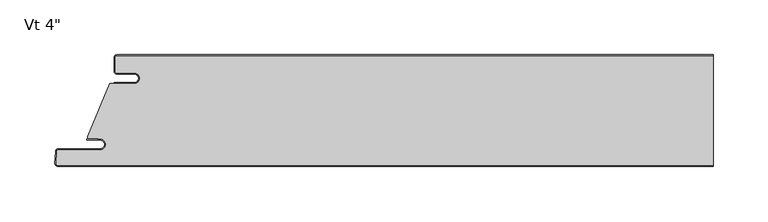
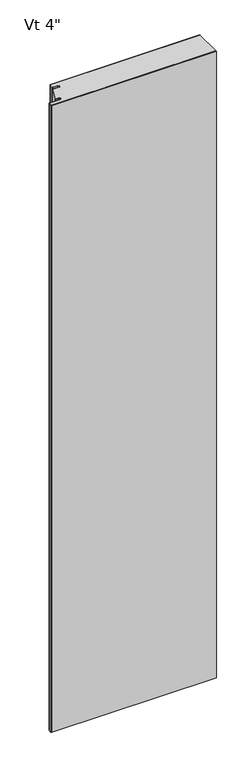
"""IFC4 building model written with IfcOpenShell, lengths in millimetres: plate geometry."""

from ifc_helpers import new_model, si_unit, point, frame_2d, origin, origin_with_axes, place, context, project, spatial, polyline, circle_curve, trimmed, segment, composite_curve, outline, extrude, source, transform, mapped, element, save


def plate_4c4a6c8b(model_context):
    return source(origin(), model_context, "Body", "SweptSolid", [
        extrude(outline(composite_curve([segment(polyline([(-253.7437498, -16.4625), (-269.6187498, -16.4625)]), True, "CONTINUOUS"), segment(trimmed(circle_curve(frame_2d((-269.6187498, -15.08125)), 1.38125), [point((-269.6187498, -16.4625))], [point((-270.9999998, -15.08125))], False, "CARTESIAN"), True, "CONTINUOUS"), segment(polyline([(-270.9999998, -15.08125), (-270.9999998, -2.38125)]), True, "CONTINUOUS"), segment(trimmed(circle_curve(frame_2d((-269.6187498, -2.38125)), 1.38125), [point((-270.9999998, -2.38125))], [point((-269.6187498, -1.0))], False, "CARTESIAN"), True, "CONTINUOUS"), segment(polyline([(-269.6187498, -1.0), (272.8062498, -1.0), (272.8062498, -100.6), (-323.4799534, -100.6)]), True, "CONTINUOUS"), segment(trimmed(circle_curve(frame_2d((-323.4799534, -99.21875)), 1.38125), [point((-323.4799534, -100.6))], [point((-324.8593104, -99.146461))], False, "CARTESIAN"), True, "CONTINUOUS"), segment(polyline([(-324.8593104, -99.146461), (-324.276929, -88.033961)]), True, "CONTINUOUS"), segment(trimmed(circle_curve(frame_2d((-322.8975719, -88.10625)), 1.38125), [point((-324.276929, -88.033961))], [point((-322.8975719, -86.725))], False, "CARTESIAN"), True, "CONTINUOUS"), segment(polyline([(-322.8975719, -86.725), (-284.7142673, -86.725)]), True, "CONTINUOUS"), segment(trimmed(circle_curve(frame_2d((-284.7142673, -81.75625)), 4.96875), [point((-284.7142673, -86.725))], [point((-284.7142673, -76.7875))], True, "CARTESIAN"), True, "CONTINUOUS"), segment(polyline([(-284.7142673, -76.7875), (-286.3017673, -76.99375), (-286.3017673, -76.2), (-295.8124998, -76.2), (-295.8124998, -74.6157227), (-275.9260921, -26.4), (-253.7437498, -26.4)]), True, "CONTINUOUS"), segment(trimmed(circle_curve(frame_2d((-253.7437498, -21.43125)), 4.96875), [point((-253.7437498, -26.4))], [point((-253.7437498, -16.4625))], True, "CARTESIAN"), True, "CONTINUOUS")], self_intersect=False)), origin_with_axes(), (0.0, 0.0, 1.0), 2400.0),
        extrude(outline(composite_curve([segment(polyline([(-271.9999998, -25.4), (-253.7437498, -25.4)]), True, "CONTINUOUS"), segment(trimmed(circle_curve(frame_2d((-253.7437498, -21.43125)), 3.96875), [point((-253.7437498, -25.4))], [point((-253.7437498, -17.4625))], True, "CARTESIAN"), True, "CONTINUOUS"), segment(polyline([(-253.7437498, -17.4625), (-269.6187498, -17.4625)]), True, "CONTINUOUS"), segment(trimmed(circle_curve(frame_2d((-269.6187498, -15.08125)), 2.38125), [point((-269.6187498, -17.4625))], [point((-271.9999998, -15.08125))], False, "CARTESIAN"), True, "CONTINUOUS"), segment(polyline([(-271.9999998, -15.08125), (-271.9999998, -2.38125)]), True, "CONTINUOUS"), segment(trimmed(circle_curve(frame_2d((-269.6187498, -2.38125)), 2.38125), [point((-271.9999998, -2.38125))], [point((-269.6187498, 0.0))], False, "CARTESIAN"), True, "CONTINUOUS"), segment(polyline([(-269.6187498, 0.0), (272.8062498, 0.0), (272.8062498, -1.0), (-269.6187498, -1.0)]), True, "CONTINUOUS"), segment(trimmed(circle_curve(frame_2d((-269.6187498, -2.38125)), 1.38125), [point((-269.6187498, -1.0))], [point((-270.9999998, -2.38125))], True, "CARTESIAN"), True, "CONTINUOUS"), segment(polyline([(-270.9999998, -2.38125), (-270.9999998, -15.08125)]), True, "CONTINUOUS"), segment(trimmed(circle_curve(frame_2d((-269.6187498, -15.08125)), 1.38125), [point((-270.9999998, -15.08125))], [point((-269.6187498, -16.4625))], True, "CARTESIAN"), True, "CONTINUOUS"), segment(polyline([(-269.6187498, -16.4625), (-253.7437498, -16.4625)]), True, "CONTINUOUS"), segment(trimmed(circle_curve(frame_2d((-253.7437498, -21.43125)), 4.96875), [point((-253.7437498, -16.4625))], [point((-253.7437498, -26.4))], False, "CARTESIAN"), True, "CONTINUOUS"), segment(polyline([(-253.7437498, -26.4), (-271.9999998, -26.4), (-271.9999998, -25.4)]), True, "CONTINUOUS")], self_intersect=False)), origin_with_axes(), (0.0, 0.0, 1.0), 2400.0),
        extrude(outline(composite_curve([segment(polyline([(-296.0252048, -76.2), (-286.3017673, -76.2), (-286.3017673, -76.99375), (-284.7142673, -76.7875)]), True, "CONTINUOUS"), segment(trimmed(circle_curve(frame_2d((-284.7142673, -81.75625)), 4.96875), [point((-284.7142673, -76.7875))], [point((-284.7142673, -86.725))], False, "CARTESIAN"), True, "CONTINUOUS"), segment(polyline([(-284.7142673, -86.725), (-322.8975719, -86.725)]), True, "CONTINUOUS"), segment(trimmed(circle_curve(frame_2d((-322.8975719, -88.10625)), 1.38125), [point((-322.8975719, -86.725))], [point((-324.276929, -88.033961))], True, "CARTESIAN"), True, "CONTINUOUS"), segment(polyline([(-324.276929, -88.033961), (-324.8593104, -99.146461)]), True, "CONTINUOUS"), segment(trimmed(circle_curve(frame_2d((-323.4799534, -99.21875)), 1.38125), [point((-324.8593104, -99.146461))], [point((-323.4799534, -100.6))], True, "CARTESIAN"), True, "CONTINUOUS"), segment(polyline([(-323.4799534, -100.6), (272.8062498, -100.6), (272.8062498, -101.6), (-323.4799534, -101.6)]), True, "CONTINUOUS"), segment(trimmed(circle_curve(frame_2d((-323.4799534, -99.21875)), 2.38125), [point((-323.4799534, -101.6))], [point((-325.8579399, -99.094125))], False, "CARTESIAN"), True, "CONTINUOUS"), segment(polyline([(-325.8579399, -99.094125), (-325.2755585, -87.981625)]), True, "CONTINUOUS"), segment(trimmed(circle_curve(frame_2d((-322.8975719, -88.10625)), 2.38125), [point((-325.2755585, -87.981625))], [point((-322.8975719, -85.725))], False, "CARTESIAN"), True, "CONTINUOUS"), segment(polyline([(-322.8975719, -85.725), (-284.7142673, -85.725)]), True, "CONTINUOUS"), segment(trimmed(circle_curve(frame_2d((-284.7142673, -81.75625)), 3.96875), [point((-284.7142673, -85.725))], [point((-284.7142673, -77.7875))], True, "CARTESIAN"), True, "CONTINUOUS"), segment(polyline([(-284.7142673, -77.7875), (-296.0252048, -77.7875)]), True, "CONTINUOUS"), segment(trimmed(circle_curve(frame_2d((-296.0252048, -76.99375)), 0.79375), [point((-296.0252048, -77.7875))], [point((-296.0252048, -76.2))], False, "CARTESIAN"), True, "CONTINUOUS")], self_intersect=False)), origin_with_axes(), (0.0, 0.0, 1.0), 2400.0),
    ])


if __name__ == "__main__":
    model = new_model("IFC4")
    model_context = context("Model", 3, world=origin())
    ifc_project = project(units=[si_unit("LENGTHUNIT", "METRE", prefix="MILLI")], contexts=[model_context])
    site = spatial("IfcSite", under=ifc_project)
    building = spatial("IfcBuilding", under=site)
    placement = place(None, origin())
    plate_shape = plate_4c4a6c8b(model_context)
    element("IfcPlate", 1, ObjectType="KIP-36-DWHR-R19-CP-Vt-F : Vt 4\"", at=placement, inside=building, context=model_context, shape_type="MappedRepresentation", body=[
        mapped(plate_shape, transform((0.0, 0.0, 0.0), x_axis=(1.0, 0.0, 0.0), y_axis=(0.0, 1.0, 0.0), z_axis=(0.0, 0.0, 1.0))),
    ])
    save(model, "model.ifc")
